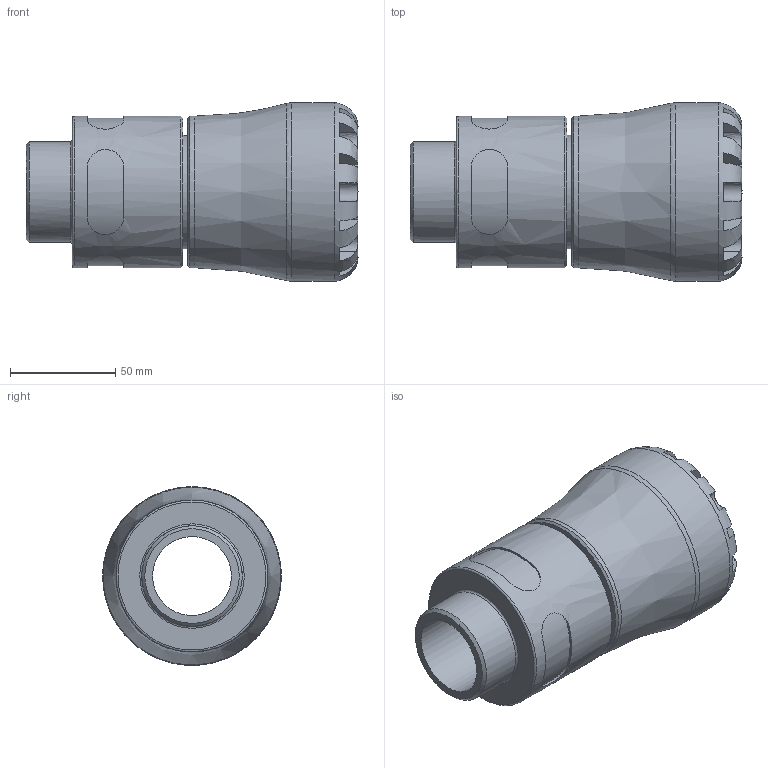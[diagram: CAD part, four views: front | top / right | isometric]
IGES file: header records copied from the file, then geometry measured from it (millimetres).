
Global section: file name: 10N200050015_10N2G0050015; native system: Autodesk Inventor 2019; preprocessor: unknown; author: KIM; date: 20240312.132000; units: millimetre
Bounding box: 158 x 85 x 84.96 mm (x, y, z)
Volume: 409105.1 mm3; surface area: 69833.1 mm2
Topology: 1 solids, 1 shells, 106 faces, 279 edges, 182 vertices
Faces by surface type: bspline 106
